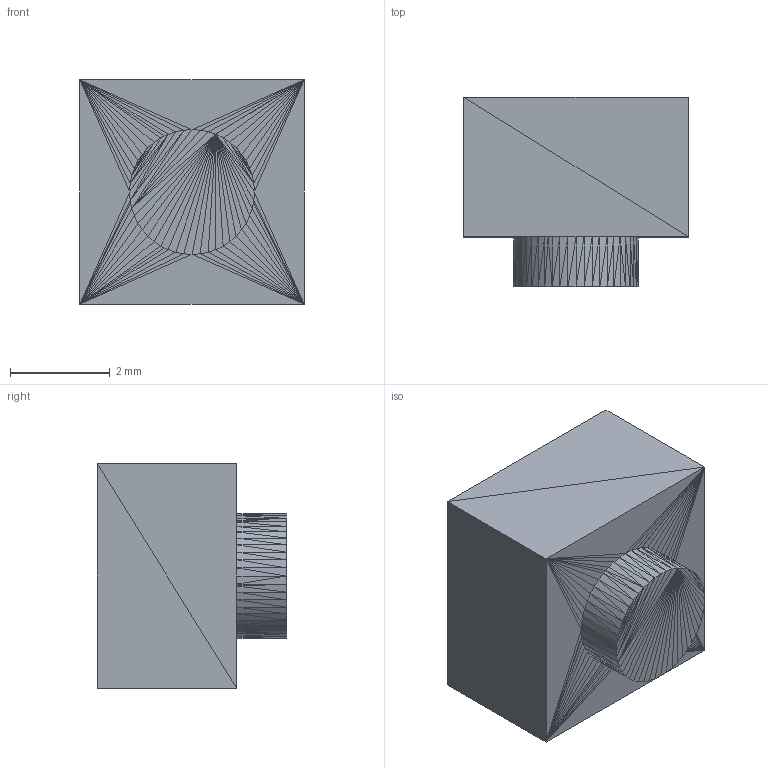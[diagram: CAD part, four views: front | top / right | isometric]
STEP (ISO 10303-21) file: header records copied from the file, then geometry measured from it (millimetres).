
FILE_DESCRIPTION(('STEP AP214'),'1');
FILE_NAME('result.stp','2026-02-15T11:17:50',(' '),(' '),'Spatial InterOp 3D',' ',' ');
FILE_SCHEMA(('automotive_design'));
Length unit declared in the file: metre
Products named in the file (1): Root
Bounding box: 4.5 x 3.8 x 4.5 mm (x, y, z)
Surface area: 98.7 mm2 (no closed solid volume)
Topology: 0 solids, 214 shells, 214 faces, 642 edges, 342 vertices
Faces by surface type: plane 214
Entity records: 7128 total; most frequent: DIRECTION 1072, ORIENTED_EDGE 642, EDGE_CURVE 642, LINE 642, VECTOR 642, CARTESIAN_POINT 343, VERTEX_POINT 342, AXIS2_PLACEMENT_3D 215
